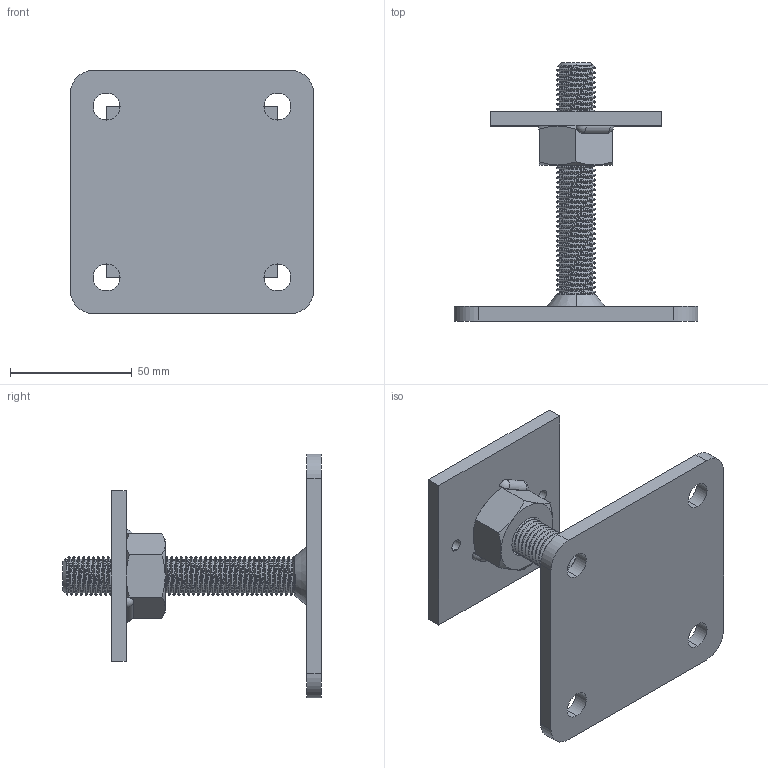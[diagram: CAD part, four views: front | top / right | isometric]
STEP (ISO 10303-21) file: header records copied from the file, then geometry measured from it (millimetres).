
FILE_DESCRIPTION (( 'STEP AP203' ), '1' );
FILE_NAME ('19823161.STEP', '2021-08-26T10:44:27', ( '' ), ( '' ), 'SwSTEP 2.0', 'SolidWorks 2013', '' );
FILE_SCHEMA (( 'CONFIG_CONTROL_DESIGN' ));
Length unit declared in the file: millimetre
Products named in the file (6): Platte 70x70x6; Platte 100x100x6; 19823161; Schweissnaht d16; Mutter M16; Gewindestange M16x100
Assembly tree (5 placements, depth 2):
  19823161
    Platte 100x100x6
    Schweissnaht d16
    Gewindestange M16x100
    Platte 70x70x6
    Mutter M16
Bounding box: 100 x 106 x 100 mm (x, y, z)
Volume: 111666 mm3; surface area: 46149.8 mm2
Topology: 5 solids, 5 shells, 184 faces, 501 edges, 322 vertices
Faces by surface type: cylinder 128, plane 33, cone 16, sphere 4, bspline 3
Entity records: 16083 total; most frequent: CARTESIAN_POINT 11392, ORIENTED_EDGE 994, DIRECTION 732, EDGE_CURVE 497, VERTEX_POINT 322, AXIS2_PLACEMENT_3D 276, EDGE_LOOP 201, FACE_OUTER_BOUND 184
